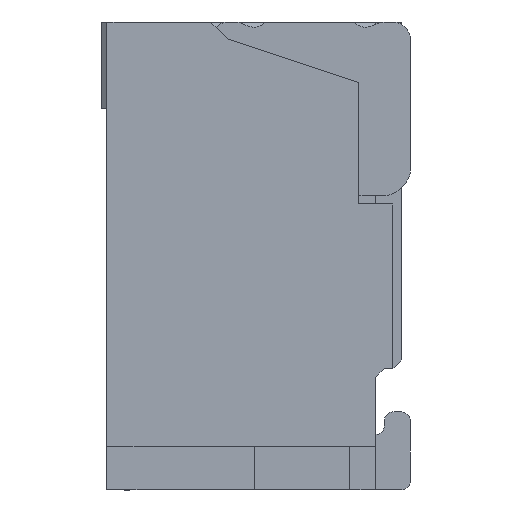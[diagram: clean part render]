
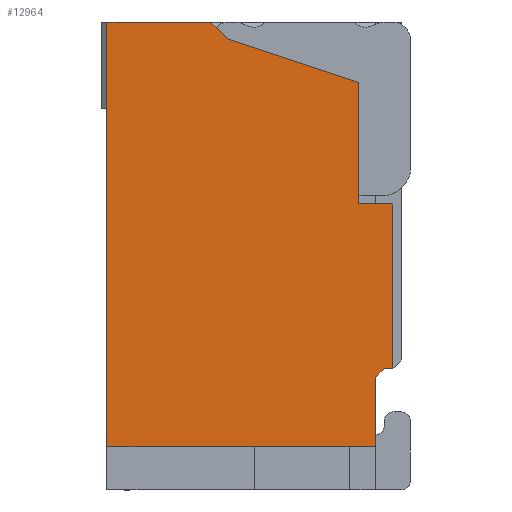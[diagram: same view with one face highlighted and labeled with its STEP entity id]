
A CAD part, left-side view. The second image highlights one B-rep face of the part: STEP entity #12964.
In plain terms, the highlighted planar face has unit normal (-1, 0, 0).
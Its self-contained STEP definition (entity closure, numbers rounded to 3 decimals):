
#425=DIRECTION('',(0.,0.,1.));
#426=VECTOR('',#425,2.45);
#427=CARTESIAN_POINT('',(-6.5,1.7,0.25));
#428=LINE('',#427,#426);
#3811=DIRECTION('',(0.,1.,0.));
#3812=VECTOR('',#3811,1.55);
#3813=CARTESIAN_POINT('',(-6.5,0.15,0.25));
#3814=LINE('',#3813,#3812);
#4459=DIRECTION('',(0.,1.,0.));
#4460=VECTOR('',#4459,0.6);
#4461=CARTESIAN_POINT('',(-6.5,1.1,2.7));
#4462=LINE('',#4461,#4460);
#4463=DIRECTION('',(0.,0.707,0.707));
#4464=VECTOR('',#4463,0.141);
#4465=CARTESIAN_POINT('',(-6.5,1.,2.6));
#4466=LINE('',#4465,#4464);
#4467=DIRECTION('',(0.,0.949,0.316));
#4468=VECTOR('',#4467,0.791);
#4469=CARTESIAN_POINT('',(-6.5,0.25,2.35));
#4470=LINE('',#4469,#4468);
#4471=DIRECTION('',(0.,0.,1.));
#4472=VECTOR('',#4471,0.7);
#4473=CARTESIAN_POINT('',(-6.5,0.25,1.65));
#4474=LINE('',#4473,#4472);
#4475=DIRECTION('',(0.,1.,0.));
#4476=VECTOR('',#4475,0.2);
#4477=CARTESIAN_POINT('',(-6.5,0.05,1.65));
#4478=LINE('',#4477,#4476);
#4479=DIRECTION('',(0.,0.,1.));
#4480=VECTOR('',#4479,0.95);
#4481=CARTESIAN_POINT('',(-6.5,0.05,0.7));
#4482=LINE('',#4481,#4480);
#4483=DIRECTION('',(0.,-1.,0.));
#4484=VECTOR('',#4483,0.05);
#4485=CARTESIAN_POINT('',(-6.5,0.1,0.7));
#4486=LINE('',#4485,#4484);
#4487=DIRECTION('',(0.,-0.707,0.707));
#4488=VECTOR('',#4487,0.071);
#4489=CARTESIAN_POINT('',(-6.5,0.15,0.65));
#4490=LINE('',#4489,#4488);
#4491=DIRECTION('',(0.,0.,1.));
#4492=VECTOR('',#4491,0.4);
#4493=CARTESIAN_POINT('',(-6.5,0.15,0.25));
#4494=LINE('',#4493,#4492);
#5749=CARTESIAN_POINT('',(-6.5,0.05,1.65));
#5750=VERTEX_POINT('',#5749);
#5751=CARTESIAN_POINT('',(-6.5,0.25,1.65));
#5752=VERTEX_POINT('',#5751);
#5777=CARTESIAN_POINT('',(-6.5,1.,2.6));
#5778=CARTESIAN_POINT('',(-6.5,1.1,2.7));
#5779=VERTEX_POINT('',#5777);
#5780=VERTEX_POINT('',#5778);
#5781=CARTESIAN_POINT('',(-6.5,0.25,2.35));
#5782=VERTEX_POINT('',#5781);
#5783=CARTESIAN_POINT('',(-6.5,0.05,0.7));
#5784=VERTEX_POINT('',#5783);
#5785=CARTESIAN_POINT('',(-6.5,0.1,0.7));
#5786=VERTEX_POINT('',#5785);
#5787=CARTESIAN_POINT('',(-6.5,0.15,0.65));
#5788=VERTEX_POINT('',#5787);
#5789=CARTESIAN_POINT('',(-6.5,0.15,0.25));
#5790=VERTEX_POINT('',#5789);
#5791=CARTESIAN_POINT('',(-6.5,1.7,0.25));
#5792=VERTEX_POINT('',#5791);
#5793=CARTESIAN_POINT('',(-6.5,1.7,2.7));
#5794=VERTEX_POINT('',#5793);
#12943=CARTESIAN_POINT('',(-6.5,0.049,2.701));
#12944=DIRECTION('',(-1.,0.,0.));
#12945=DIRECTION('',(0.,1.,0.));
#12946=AXIS2_PLACEMENT_3D('',#12943,#12944,#12945);
#12947=PLANE('',#12946);
#12948=ORIENTED_EDGE('',*,*,#7713,.F.);
#12950=ORIENTED_EDGE('',*,*,#12949,.F.);
#12952=ORIENTED_EDGE('',*,*,#12951,.F.);
#12953=ORIENTED_EDGE('',*,*,#7526,.F.);
#12954=ORIENTED_EDGE('',*,*,#7551,.F.);
#12956=ORIENTED_EDGE('',*,*,#12955,.F.);
#12957=ORIENTED_EDGE('',*,*,#12919,.F.);
#12958=ORIENTED_EDGE('',*,*,#12936,.F.);
#12959=ORIENTED_EDGE('',*,*,#8989,.F.);
#12960=ORIENTED_EDGE('',*,*,#11991,.T.);
#12961=ORIENTED_EDGE('',*,*,#7787,.T.);
#12962=EDGE_LOOP('',(#12948,#12950,#12952,#12953,#12954,#12956,#12957,#12958,
#12959,#12960,#12961));
#12963=FACE_OUTER_BOUND('',#12962,.F.);
#12964=ADVANCED_FACE('',(#12963),#12947,.T.);
#7526=EDGE_CURVE('',#5752,#5782,#4474,.T.);
#7551=EDGE_CURVE('',#5750,#5752,#4478,.T.);
#7713=EDGE_CURVE('',#5780,#5794,#4462,.T.);
#7787=EDGE_CURVE('',#5792,#5794,#428,.T.);
#8989=EDGE_CURVE('',#5790,#5788,#4494,.T.);
#11991=EDGE_CURVE('',#5790,#5792,#3814,.T.);
#12919=EDGE_CURVE('',#5786,#5784,#4486,.T.);
#12936=EDGE_CURVE('',#5788,#5786,#4490,.T.);
#12949=EDGE_CURVE('',#5779,#5780,#4466,.T.);
#12951=EDGE_CURVE('',#5782,#5779,#4470,.T.);
#12955=EDGE_CURVE('',#5784,#5750,#4482,.T.);
